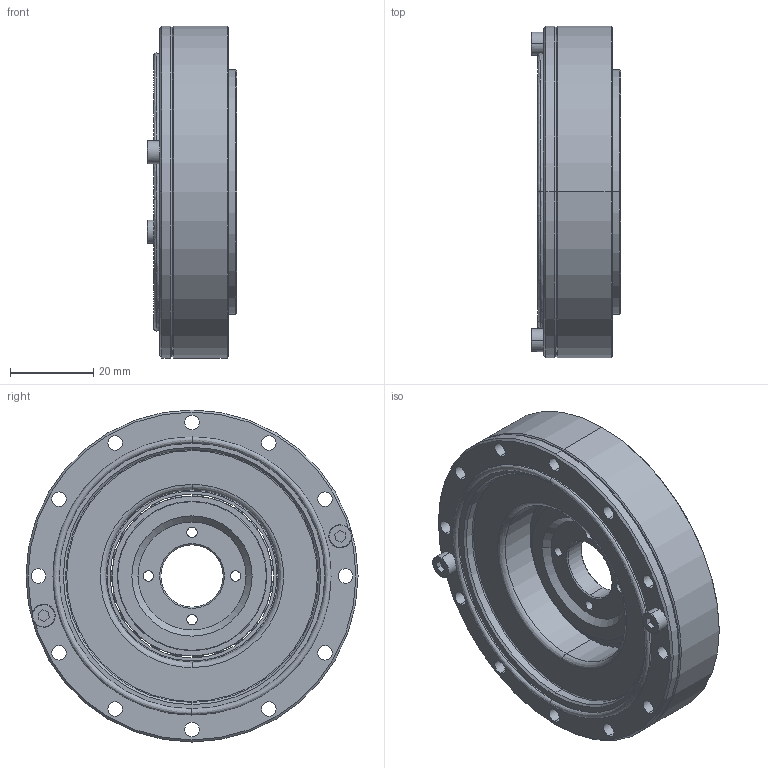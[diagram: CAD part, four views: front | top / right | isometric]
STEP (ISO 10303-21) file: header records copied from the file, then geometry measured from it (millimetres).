
FILE_DESCRIPTION (( 'STEP AP214' ), '1' );
FILE_NAME ('SHD-17-XXX-2SH.STEP', '2023-03-25T06:03:36', ( 'Admin' ), ( '' ), 'SwSTEP 2.0', 'SolidWorks 2018', '' );
FILE_SCHEMA (( 'AUTOMOTIVE_DESIGN' ));
Length unit declared in the file: millimetre
Products named in the file (38): SHD-17-XXX-SH_2; SHD-17-XXX-SH_17; SHD-17-XXX-SH_34; SHD-17-XXX-SH_26; SHD-17-XXX-SH_25; SHD-17-XXX-SH_37; SHD-17-XXX-SH_27; SHD-17-XXX-SH_36; SHD-17-XXX-SH_15; SHD-17-XXX-SH_19; SHD-17-XXX-SH_6; SHD-17-XXX-SH_20; SHD-17-XXX-SH; SHD-17-XXX-SH_31; SHD-17-XXX-SH_5; SHD-17-XXX-SH_32; SHD-17-XXX-SH_24; SHD-17-XXX-SH_10; SHD-17-XXX-SH_29; SHD-17-XXX-SH_21; SHD-17-XXX-SH_13; SHD-17-XXX-SH_16; SHD-17-XXX-SH_33; SHD-17-XXX-SH_3; SHD-17-XXX-SH_35; SHD-17-XXX-SH_22; SHD-17-XXX-SH_14; SHD-17-XXX-SH_4; SHD-17-XXX-SH_12; SHD-17-XXX-SH_9; SHD-17-XXX-SH_8; SHD-17-XXX-SH_30; SHD-17-XXX-2SH; SHD-17-XXX-SH_7; SHD-17-XXX-SH_18; SHD-17-XXX-SH_11; SHD-17-XXX-SH_23; SHD-17-XXX-SH_28
Assembly tree (37 placements, depth 2):
  SHD-17-XXX-2SH
    SHD-17-XXX-SH_35
    SHD-17-XXX-SH_10
    SHD-17-XXX-SH_14
    SHD-17-XXX-SH_8
    SHD-17-XXX-SH_23
    SHD-17-XXX-SH_31
    SHD-17-XXX-SH_36
    SHD-17-XXX-SH_32
    SHD-17-XXX-SH_5
    SHD-17-XXX-SH_26
    SHD-17-XXX-SH_37
    SHD-17-XXX-SH
    SHD-17-XXX-SH_9
    SHD-17-XXX-SH_4
    SHD-17-XXX-SH_22
    SHD-17-XXX-SH_20
    SHD-17-XXX-SH_25
    SHD-17-XXX-SH_29
    SHD-17-XXX-SH_18
    SHD-17-XXX-SH_16
    SHD-17-XXX-SH_33
    SHD-17-XXX-SH_13
    SHD-17-XXX-SH_21
    SHD-17-XXX-SH_34
    SHD-17-XXX-SH_6
    SHD-17-XXX-SH_2
    SHD-17-XXX-SH_7
    SHD-17-XXX-SH_17
    SHD-17-XXX-SH_3
    SHD-17-XXX-SH_30
    SHD-17-XXX-SH_28
    SHD-17-XXX-SH_15
    SHD-17-XXX-SH_24
    SHD-17-XXX-SH_11
    SHD-17-XXX-SH_27
    SHD-17-XXX-SH_19
    SHD-17-XXX-SH_12
Bounding box: 21.5 x 80 x 80 mm (x, y, z)
Volume: 56718.1 mm3; surface area: 49330 mm2
Topology: 37 solids, 37 shells, 512 faces, 1298 edges, 770 vertices
Faces by surface type: cylinder 230, plane 100, cone 92, bspline 90
Entity records: 18305 total; most frequent: CARTESIAN_POINT 4568, DIRECTION 2830, ORIENTED_EDGE 2356, AXIS2_PLACEMENT_3D 1214, EDGE_CURVE 1178, VERTEX_POINT 770, CIRCLE 752, EDGE_LOOP 624
